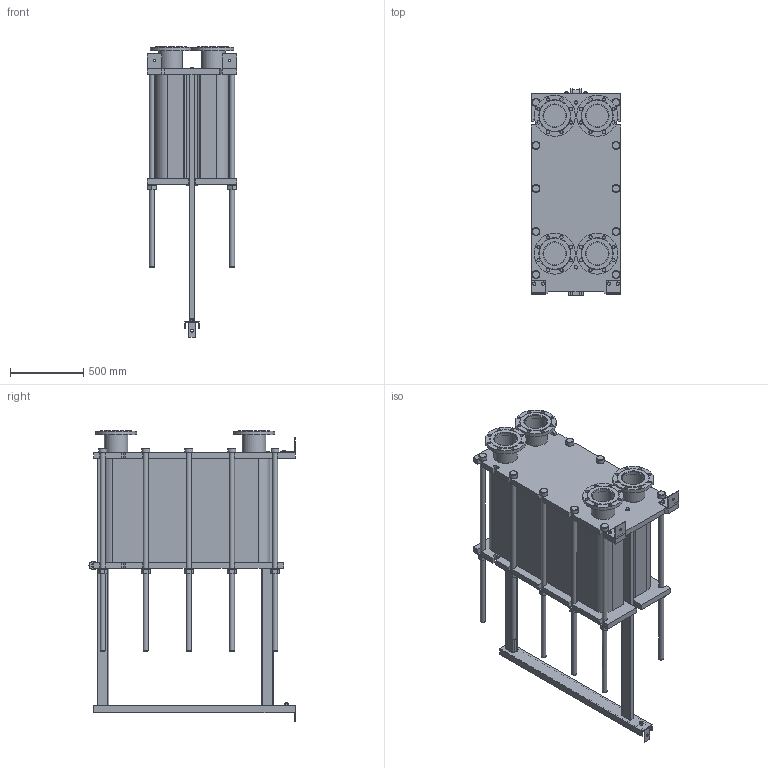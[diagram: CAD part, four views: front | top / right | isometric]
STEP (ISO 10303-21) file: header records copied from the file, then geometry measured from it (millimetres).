
FILE_DESCRIPTION(/* description */ (''),/* implementation_level */ '2;1');
FILE_NAME(/* name */ 'C:\Users\zhuro\Desktop\ENCO\TO\ЭН-041\ЭН-0,5-041-206-1.stp',/* time_stamp */ '2022-06-06T11:06:37+03:00',/* author */ ('zhuro'),/* organization */ (''),/* preprocessor_version */ 'ST-DEVELOPER v18.1',/* originating_system */ 'Autodesk Inventor 2022',/* authorisation */ '');
FILE_SCHEMA (('AUTOMOTIVE_DESIGN { 1 0 10303 214 3 1 1 }'));
Length unit declared in the file: millimetre
Products named in the file (1): ЭН-0,5-041-206-1
Bounding box: 610 x 1406.5 x 1985 mm (x, y, z)
Volume: 487646217.1 mm3; surface area: 11361724.2 mm2
Topology: 52 solids, 52 shells, 711 faces, 1696 edges, 1094 vertices
Faces by surface type: plane 487, cylinder 177, cone 41, torus 6
Full cylindrical faces by diameter (mm): 8 x4, 10 x2, 16 x8, 18 x3, 22 x32, 36 x24, 50 x1, 54 x10, 60 x12, 151 x4, 161 x8, 280 x4
Entity records: 22667 total; most frequent: CARTESIAN_POINT 5230, DIRECTION 3644, ORIENTED_EDGE 3392, EDGE_CURVE 1696, AXIS2_PLACEMENT_3D 1272, LINE 1100, VECTOR 1100, VERTEX_POINT 1094
